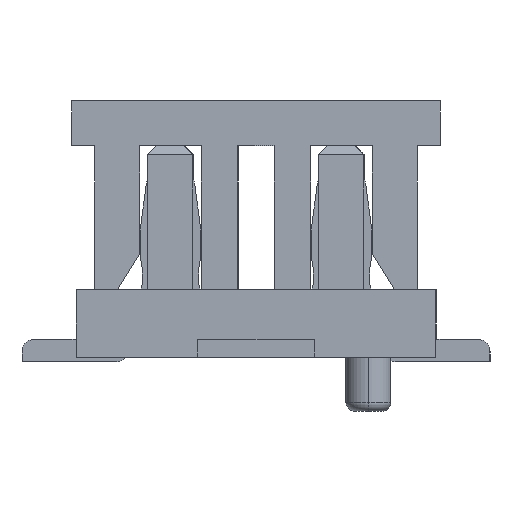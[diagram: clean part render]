
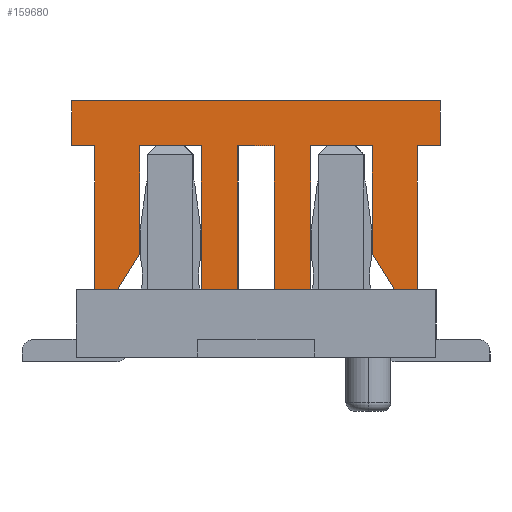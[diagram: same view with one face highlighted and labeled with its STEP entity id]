
A CAD part, left-side view. The second image highlights one B-rep face of the part: STEP entity #159680.
In plain terms, the highlighted planar face has unit normal (-1, 0, 0).
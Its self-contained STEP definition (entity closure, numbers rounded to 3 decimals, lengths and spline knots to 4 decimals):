
#159013=CARTESIAN_POINT('Vertex',(-4.,0.61,0.75)) ;
#159018=CARTESIAN_POINT('Line Origine',(-4.,0.61,1.55)) ;
#159022=CARTESIAN_POINT('Vertex',(-4.,0.61,2.35)) ;
#159049=CARTESIAN_POINT('Line Origine',(-4.,0.95,2.35)) ;
#159053=CARTESIAN_POINT('Vertex',(-4.,1.29,2.35)) ;
#159080=CARTESIAN_POINT('Line Origine',(-4.,1.29,1.75)) ;
#159084=CARTESIAN_POINT('Vertex',(-4.,1.29,1.15)) ;
#159111=CARTESIAN_POINT('Line Origine',(-4.,1.415,0.95)) ;
#159115=CARTESIAN_POINT('Vertex',(-4.,1.54,0.75)) ;
#159142=CARTESIAN_POINT('Line Origine',(-4.,1.665,0.75)) ;
#159146=CARTESIAN_POINT('Vertex',(-4.,1.79,0.75)) ;
#159173=CARTESIAN_POINT('Line Origine',(-4.,1.79,1.55)) ;
#159177=CARTESIAN_POINT('Vertex',(-4.,1.79,2.35)) ;
#159199=CARTESIAN_POINT('Line Origine',(-4.,1.92,2.35)) ;
#159203=CARTESIAN_POINT('Vertex',(-4.,2.05,2.35)) ;
#159230=CARTESIAN_POINT('Line Origine',(-4.,2.05,2.6)) ;
#159234=CARTESIAN_POINT('Vertex',(-4.,2.05,2.85)) ;
#159261=CARTESIAN_POINT('Line Origine',(-4.,0.,2.85)) ;
#159265=CARTESIAN_POINT('Vertex',(-4.,-2.05,2.85)) ;
#159292=CARTESIAN_POINT('Line Origine',(-4.,-2.05,2.6)) ;
#159296=CARTESIAN_POINT('Vertex',(-4.,-2.05,2.35)) ;
#159318=CARTESIAN_POINT('Line Origine',(-4.,-1.92,2.35)) ;
#159322=CARTESIAN_POINT('Vertex',(-4.,-1.79,2.35)) ;
#159349=CARTESIAN_POINT('Line Origine',(-4.,-1.79,1.55)) ;
#159353=CARTESIAN_POINT('Vertex',(-4.,-1.79,0.75)) ;
#159375=CARTESIAN_POINT('Line Origine',(-4.,-1.665,0.75)) ;
#159379=CARTESIAN_POINT('Vertex',(-4.,-1.54,0.75)) ;
#159406=CARTESIAN_POINT('Line Origine',(-4.,-1.415,0.95)) ;
#159410=CARTESIAN_POINT('Vertex',(-4.,-1.29,1.15)) ;
#159437=CARTESIAN_POINT('Line Origine',(-4.,-1.29,1.75)) ;
#159441=CARTESIAN_POINT('Vertex',(-4.,-1.29,2.35)) ;
#159463=CARTESIAN_POINT('Line Origine',(-4.,-0.95,2.35)) ;
#159467=CARTESIAN_POINT('Vertex',(-4.,-0.61,2.35)) ;
#159494=CARTESIAN_POINT('Line Origine',(-4.,-0.61,1.55)) ;
#159498=CARTESIAN_POINT('Vertex',(-4.,-0.61,0.75)) ;
#159520=CARTESIAN_POINT('Line Origine',(-4.,-0.405,0.75)) ;
#159524=CARTESIAN_POINT('Vertex',(-4.,-0.2,0.75)) ;
#159551=CARTESIAN_POINT('Line Origine',(-4.,-0.2,1.55)) ;
#159555=CARTESIAN_POINT('Vertex',(-4.,-0.2,2.35)) ;
#159577=CARTESIAN_POINT('Line Origine',(-4.,0.,2.35)) ;
#159581=CARTESIAN_POINT('Vertex',(-4.,0.2,2.35)) ;
#159608=CARTESIAN_POINT('Line Origine',(-4.,0.2,1.55)) ;
#159612=CARTESIAN_POINT('Vertex',(-4.,0.2,0.75)) ;
#159634=CARTESIAN_POINT('Line Origine',(-4.,0.405,0.75)) ;
#159651=CARTESIAN_POINT('Axis2P3D Location',(-4.,0.,0.)) ;
#159019=DIRECTION('Vector Direction',(0.,0.,1.)) ;
#159050=DIRECTION('Vector Direction',(0.,1.,0.)) ;
#159081=DIRECTION('Vector Direction',(0.,0.,-1.)) ;
#159112=DIRECTION('Vector Direction',(0.,0.53,-0.848)) ;
#159143=DIRECTION('Vector Direction',(0.,1.,0.)) ;
#159174=DIRECTION('Vector Direction',(0.,0.,1.)) ;
#159200=DIRECTION('Vector Direction',(0.,1.,0.)) ;
#159231=DIRECTION('Vector Direction',(0.,0.,1.)) ;
#159262=DIRECTION('Vector Direction',(0.,1.,0.)) ;
#159293=DIRECTION('Vector Direction',(0.,0.,1.)) ;
#159319=DIRECTION('Vector Direction',(0.,-1.,0.)) ;
#159350=DIRECTION('Vector Direction',(0.,0.,1.)) ;
#159376=DIRECTION('Vector Direction',(0.,-1.,0.)) ;
#159407=DIRECTION('Vector Direction',(0.,-0.53,-0.848)) ;
#159438=DIRECTION('Vector Direction',(0.,0.,-1.)) ;
#159464=DIRECTION('Vector Direction',(0.,-1.,0.)) ;
#159495=DIRECTION('Vector Direction',(0.,0.,1.)) ;
#159521=DIRECTION('Vector Direction',(0.,-1.,0.)) ;
#159552=DIRECTION('Vector Direction',(0.,0.,1.)) ;
#159578=DIRECTION('Vector Direction',(0.,1.,0.)) ;
#159609=DIRECTION('Vector Direction',(0.,0.,-1.)) ;
#159635=DIRECTION('Vector Direction',(0.,-1.,0.)) ;
#159652=DIRECTION('Axis2P3D Direction',(1.,0.,0.)) ;
#159653=DIRECTION('Axis2P3D XDirection',(0.,1.,0.)) ;
#159654=AXIS2_PLACEMENT_3D('Plane Axis2P3D',#159651,#159652,#159653) ;
#159657=ORIENTED_EDGE('',*,*,#159638,.F.) ;
#159658=ORIENTED_EDGE('',*,*,#159614,.F.) ;
#159659=ORIENTED_EDGE('',*,*,#159583,.F.) ;
#159660=ORIENTED_EDGE('',*,*,#159557,.F.) ;
#159661=ORIENTED_EDGE('',*,*,#159526,.F.) ;
#159662=ORIENTED_EDGE('',*,*,#159500,.F.) ;
#159663=ORIENTED_EDGE('',*,*,#159469,.F.) ;
#159664=ORIENTED_EDGE('',*,*,#159443,.F.) ;
#159665=ORIENTED_EDGE('',*,*,#159412,.F.) ;
#159666=ORIENTED_EDGE('',*,*,#159381,.F.) ;
#159667=ORIENTED_EDGE('',*,*,#159355,.F.) ;
#159668=ORIENTED_EDGE('',*,*,#159324,.F.) ;
#159669=ORIENTED_EDGE('',*,*,#159298,.F.) ;
#159670=ORIENTED_EDGE('',*,*,#159267,.F.) ;
#159671=ORIENTED_EDGE('',*,*,#159236,.F.) ;
#159672=ORIENTED_EDGE('',*,*,#159205,.F.) ;
#159673=ORIENTED_EDGE('',*,*,#159179,.F.) ;
#159674=ORIENTED_EDGE('',*,*,#159148,.F.) ;
#159675=ORIENTED_EDGE('',*,*,#159117,.F.) ;
#159676=ORIENTED_EDGE('',*,*,#159086,.F.) ;
#159677=ORIENTED_EDGE('',*,*,#159055,.F.) ;
#159678=ORIENTED_EDGE('',*,*,#159024,.F.) ;
#159020=VECTOR('Line Direction',#159019,1.) ;
#159051=VECTOR('Line Direction',#159050,1.) ;
#159082=VECTOR('Line Direction',#159081,1.) ;
#159113=VECTOR('Line Direction',#159112,1.) ;
#159144=VECTOR('Line Direction',#159143,1.) ;
#159175=VECTOR('Line Direction',#159174,1.) ;
#159201=VECTOR('Line Direction',#159200,1.) ;
#159232=VECTOR('Line Direction',#159231,1.) ;
#159263=VECTOR('Line Direction',#159262,1.) ;
#159294=VECTOR('Line Direction',#159293,1.) ;
#159320=VECTOR('Line Direction',#159319,1.) ;
#159351=VECTOR('Line Direction',#159350,1.) ;
#159377=VECTOR('Line Direction',#159376,1.) ;
#159408=VECTOR('Line Direction',#159407,1.) ;
#159439=VECTOR('Line Direction',#159438,1.) ;
#159465=VECTOR('Line Direction',#159464,1.) ;
#159496=VECTOR('Line Direction',#159495,1.) ;
#159522=VECTOR('Line Direction',#159521,1.) ;
#159553=VECTOR('Line Direction',#159552,1.) ;
#159579=VECTOR('Line Direction',#159578,1.) ;
#159610=VECTOR('Line Direction',#159609,1.) ;
#159636=VECTOR('Line Direction',#159635,1.) ;
#159680=ADVANCED_FACE('\X2\76D65B50\X0\',(#159679),#159655,.F.) ;
#159024=EDGE_CURVE('',#159014,#159023,#159021,.T.) ;
#159055=EDGE_CURVE('',#159023,#159054,#159052,.T.) ;
#159086=EDGE_CURVE('',#159054,#159085,#159083,.T.) ;
#159117=EDGE_CURVE('',#159085,#159116,#159114,.T.) ;
#159148=EDGE_CURVE('',#159116,#159147,#159145,.T.) ;
#159179=EDGE_CURVE('',#159147,#159178,#159176,.T.) ;
#159205=EDGE_CURVE('',#159178,#159204,#159202,.T.) ;
#159236=EDGE_CURVE('',#159204,#159235,#159233,.T.) ;
#159267=EDGE_CURVE('',#159235,#159266,#159264,.F.) ;
#159298=EDGE_CURVE('',#159266,#159297,#159295,.F.) ;
#159324=EDGE_CURVE('',#159297,#159323,#159321,.F.) ;
#159355=EDGE_CURVE('',#159323,#159354,#159352,.F.) ;
#159381=EDGE_CURVE('',#159354,#159380,#159378,.F.) ;
#159412=EDGE_CURVE('',#159380,#159411,#159409,.F.) ;
#159443=EDGE_CURVE('',#159411,#159442,#159440,.F.) ;
#159469=EDGE_CURVE('',#159442,#159468,#159466,.F.) ;
#159500=EDGE_CURVE('',#159468,#159499,#159497,.F.) ;
#159526=EDGE_CURVE('',#159499,#159525,#159523,.F.) ;
#159557=EDGE_CURVE('',#159525,#159556,#159554,.T.) ;
#159583=EDGE_CURVE('',#159556,#159582,#159580,.T.) ;
#159614=EDGE_CURVE('',#159582,#159613,#159611,.T.) ;
#159638=EDGE_CURVE('',#159613,#159014,#159637,.F.) ;
#159656=EDGE_LOOP('',(#159657,#159658,#159659,#159660,#159661,#159662,#159663,#159664,#159665,#159666,#159667,#159668,#159669,#159670,#159671,#159672,#159673,#159674,#159675,#159676,#159677,#159678)) ;
#159679=FACE_OUTER_BOUND('',#159656,.T.) ;
#159021=LINE('Line',#159018,#159020) ;
#159052=LINE('Line',#159049,#159051) ;
#159083=LINE('Line',#159080,#159082) ;
#159114=LINE('Line',#159111,#159113) ;
#159145=LINE('Line',#159142,#159144) ;
#159176=LINE('Line',#159173,#159175) ;
#159202=LINE('Line',#159199,#159201) ;
#159233=LINE('Line',#159230,#159232) ;
#159264=LINE('Line',#159261,#159263) ;
#159295=LINE('Line',#159292,#159294) ;
#159321=LINE('Line',#159318,#159320) ;
#159352=LINE('Line',#159349,#159351) ;
#159378=LINE('Line',#159375,#159377) ;
#159409=LINE('Line',#159406,#159408) ;
#159440=LINE('Line',#159437,#159439) ;
#159466=LINE('Line',#159463,#159465) ;
#159497=LINE('Line',#159494,#159496) ;
#159523=LINE('Line',#159520,#159522) ;
#159554=LINE('Line',#159551,#159553) ;
#159580=LINE('Line',#159577,#159579) ;
#159611=LINE('Line',#159608,#159610) ;
#159637=LINE('Line',#159634,#159636) ;
#159655=PLANE('Plane',#159654) ;
#159014=VERTEX_POINT('',#159013) ;
#159023=VERTEX_POINT('',#159022) ;
#159054=VERTEX_POINT('',#159053) ;
#159085=VERTEX_POINT('',#159084) ;
#159116=VERTEX_POINT('',#159115) ;
#159147=VERTEX_POINT('',#159146) ;
#159178=VERTEX_POINT('',#159177) ;
#159204=VERTEX_POINT('',#159203) ;
#159235=VERTEX_POINT('',#159234) ;
#159266=VERTEX_POINT('',#159265) ;
#159297=VERTEX_POINT('',#159296) ;
#159323=VERTEX_POINT('',#159322) ;
#159354=VERTEX_POINT('',#159353) ;
#159380=VERTEX_POINT('',#159379) ;
#159411=VERTEX_POINT('',#159410) ;
#159442=VERTEX_POINT('',#159441) ;
#159468=VERTEX_POINT('',#159467) ;
#159499=VERTEX_POINT('',#159498) ;
#159525=VERTEX_POINT('',#159524) ;
#159556=VERTEX_POINT('',#159555) ;
#159582=VERTEX_POINT('',#159581) ;
#159613=VERTEX_POINT('',#159612) ;
